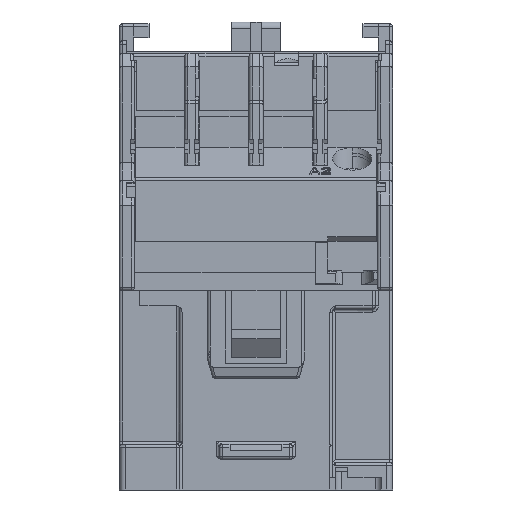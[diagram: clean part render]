
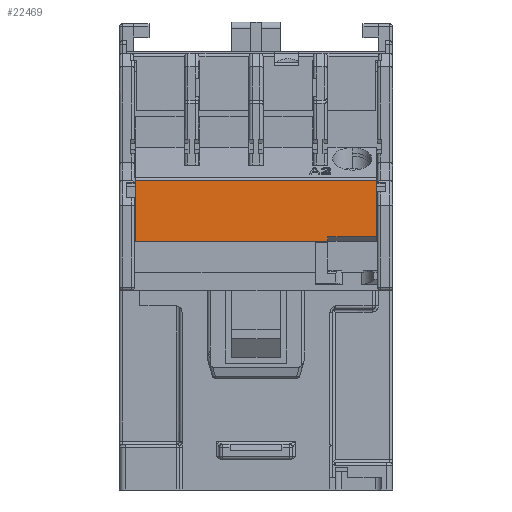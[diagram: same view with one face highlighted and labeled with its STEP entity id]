
A CAD part, front view. The second image highlights one B-rep face of the part: STEP entity #22469.
In plain terms, the highlighted planar face has unit normal (0, -1, 0.018).
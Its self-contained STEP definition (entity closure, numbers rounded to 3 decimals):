
#1033 = CARTESIAN_POINT ( 'NONE',  ( 34.1, 4.5, 40.65 ) ) ;
#1982 = DIRECTION ( 'NONE',  ( 0., 0.017, 1. ) ) ;
#2136 = FACE_OUTER_BOUND ( 'NONE', #7248, .T. ) ;
#5560 = PLANE ( 'NONE',  #49480 ) ;
#6177 = CARTESIAN_POINT ( 'NONE',  ( 42.1, 4.514, 41.436 ) ) ;
#6261 = VERTEX_POINT ( 'NONE', #32584 ) ;
#7248 = EDGE_LOOP ( 'NONE', ( #41850, #40910, #26132, #41457, #40430, #31961 ) ) ;
#7436 = VECTOR ( 'NONE', #1982, 1000. ) ;
#7911 = DIRECTION ( 'NONE',  ( 1., 0., 0. ) ) ;
#7933 = CARTESIAN_POINT ( 'NONE',  ( 2.6, 4.5, 40.65 ) ) ;
#9295 = VECTOR ( 'NONE', #7911, 1000. ) ;
#12722 = LINE ( 'NONE', #41149, #44582 ) ;
#13496 = DIRECTION ( 'NONE',  ( 0., -0.017, -1. ) ) ;
#14094 = DIRECTION ( 'NONE',  ( 0., 0.017, 1. ) ) ;
#14345 = LINE ( 'NONE', #42003, #40907 ) ;
#14560 = EDGE_CURVE ( 'NONE', #15082, #19995, #14345, .T. ) ;
#14707 = VERTEX_POINT ( 'NONE', #45091 ) ;
#15082 = VERTEX_POINT ( 'NONE', #1033 ) ;
#19538 = DIRECTION ( 'NONE',  ( 1., 0., 0. ) ) ;
#19870 = EDGE_CURVE ( 'NONE', #14707, #49917, #50662, .T. ) ;
#19995 = VERTEX_POINT ( 'NONE', #30614 ) ;
#21424 = DIRECTION ( 'NONE',  ( -1., 0., 0. ) ) ;
#22469 = ADVANCED_FACE ( 'NONE', ( #2136 ), #5560, .T. ) ;
#24727 = CARTESIAN_POINT ( 'NONE',  ( 2.6, 4.675, 50.698 ) ) ;
#25131 = VECTOR ( 'NONE', #21424, 1000. ) ;
#26132 = ORIENTED_EDGE ( 'NONE', *, *, #14560, .T. ) ;
#27918 = CARTESIAN_POINT ( 'NONE',  ( 34.1, 4.514, 41.436 ) ) ;
#29340 = CARTESIAN_POINT ( 'NONE',  ( 42.1, 4.675, 50.698 ) ) ;
#30614 = CARTESIAN_POINT ( 'NONE',  ( 34.1, 4.514, 41.436 ) ) ;
#31961 = ORIENTED_EDGE ( 'NONE', *, *, #19870, .T. ) ;
#32584 = CARTESIAN_POINT ( 'NONE',  ( 42.1, 4.514, 41.436 ) ) ;
#33792 = EDGE_CURVE ( 'NONE', #6261, #14707, #38339, .T. ) ;
#34254 = CARTESIAN_POINT ( 'NONE',  ( 43.675, 4.5, 40.65 ) ) ;
#35447 = EDGE_CURVE ( 'NONE', #49917, #43896, #12722, .T. ) ;
#35640 = EDGE_CURVE ( 'NONE', #19995, #6261, #47961, .T. ) ;
#37053 = EDGE_CURVE ( 'NONE', #43896, #15082, #43514, .T. ) ;
#38339 = LINE ( 'NONE', #6177, #7436 ) ;
#40430 = ORIENTED_EDGE ( 'NONE', *, *, #33792, .T. ) ;
#40907 = VECTOR ( 'NONE', #14094, 1000. ) ;
#40910 = ORIENTED_EDGE ( 'NONE', *, *, #37053, .T. ) ;
#41149 = CARTESIAN_POINT ( 'NONE',  ( 2.6, 4.675, 50.698 ) ) ;
#41457 = ORIENTED_EDGE ( 'NONE', *, *, #35640, .T. ) ;
#41850 = ORIENTED_EDGE ( 'NONE', *, *, #35447, .T. ) ;
#42003 = CARTESIAN_POINT ( 'NONE',  ( 34.1, 4.5, 40.65 ) ) ;
#42437 = DIRECTION ( 'NONE',  ( 0., -1., 0.017 ) ) ;
#43514 = LINE ( 'NONE', #7933, #44747 ) ;
#43896 = VERTEX_POINT ( 'NONE', #48039 ) ;
#44582 = VECTOR ( 'NONE', #13496, 1000. ) ;
#44747 = VECTOR ( 'NONE', #19538, 1000. ) ;
#45091 = CARTESIAN_POINT ( 'NONE',  ( 42.1, 4.675, 50.698 ) ) ;
#47961 = LINE ( 'NONE', #27918, #9295 ) ;
#48039 = CARTESIAN_POINT ( 'NONE',  ( 2.6, 4.5, 40.65 ) ) ;
#49480 = AXIS2_PLACEMENT_3D ( 'NONE', #34254, #42437, #49821 ) ;
#49821 = DIRECTION ( 'NONE',  ( 1., 0., 0. ) ) ;
#49917 = VERTEX_POINT ( 'NONE', #24727 ) ;
#50662 = LINE ( 'NONE', #29340, #25131 ) ;
